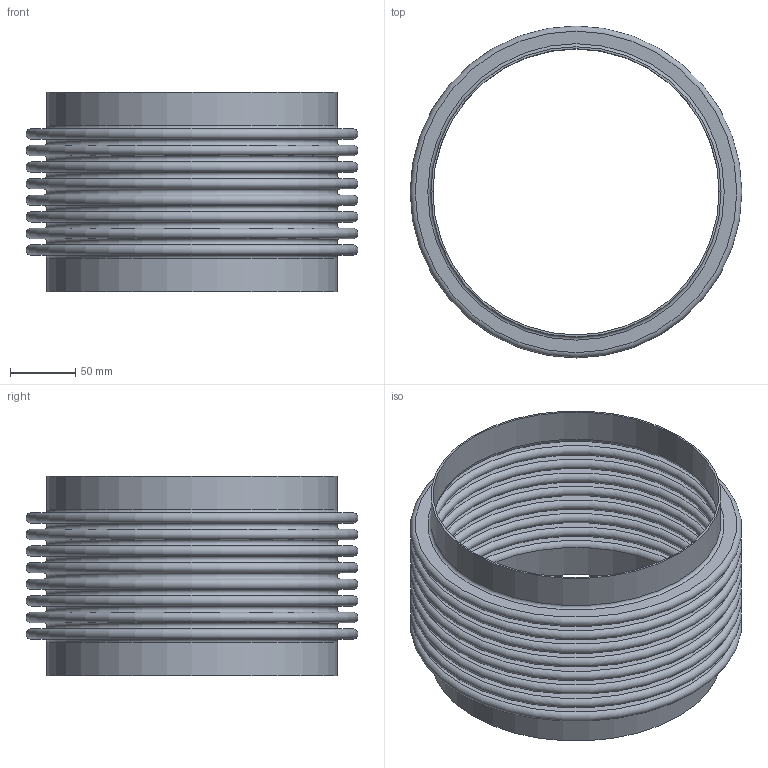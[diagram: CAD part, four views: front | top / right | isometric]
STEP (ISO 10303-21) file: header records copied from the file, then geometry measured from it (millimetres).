
FILE_DESCRIPTION(/* description */ ('STOCK BELLOWS: U.S-8-8-300S, 8.625 I.D., 10.000 O.D., 2 PLY, 22 GA (0.030 THICK), 8 CONS., 0.500 PITCH, 1.000 TANGENT. '),/* implementation_level */ '2;1');
FILE_NAME(/* name */ 'STOCK BELLOW - US-8-8-300S.stp',/* time_stamp */ '2026-07-21T13:27:25-05:00',/* author */ ('KennethB'),/* organization */ (''),/* preprocessor_version */ 'ST-DEVELOPER v20.1',/* originating_system */ 'Autodesk Inventor 2026',/* authorisation */ '');
FILE_SCHEMA (('AUTOMOTIVE_DESIGN { 1 0 10303 214 3 1 1 }'));
Length unit declared in the file: inch
Products named in the file (1): STOCK BELLOW - US-8-8-300S
Bounding box: 254 x 254 x 152.4 mm (x, y, z)
Volume: 408133.8 mm3; surface area: 541945.8 mm2
Topology: 3 solids, 3 shells, 76 faces, 114 edges, 77 vertices
Faces by surface type: plane 38, torus 34, cylinder 4
Full cylindrical faces by diameter (mm): 219.075 x2, 222.123 x2
Entity records: 1814 total; most frequent: DIRECTION 378, CARTESIAN_POINT 268, ORIENTED_EDGE 228, AXIS2_PLACEMENT_3D 187, EDGE_LOOP 114, EDGE_CURVE 114, CIRCLE 110, FACE_OUTER_BOUND 76
